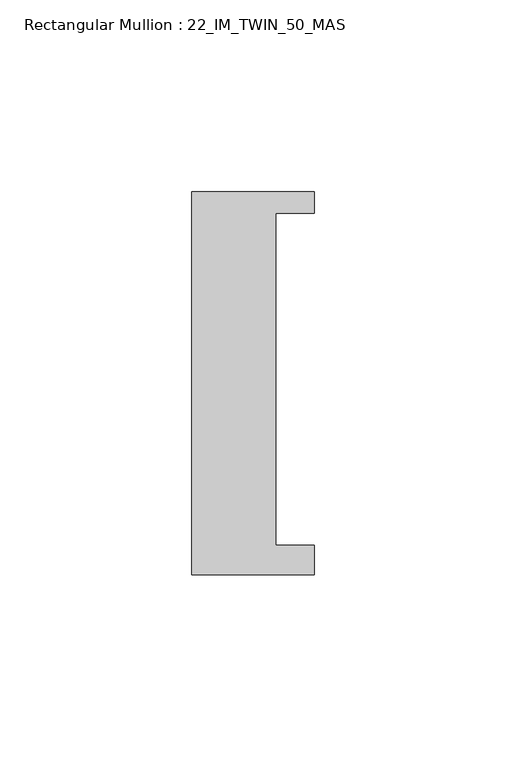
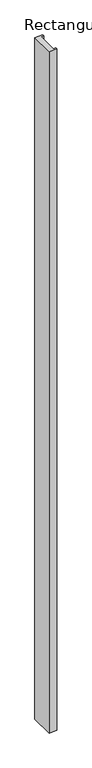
"""IFC4 building model written with IfcOpenShell, lengths in millimetres: member geometry, Rectangular Mullion : 22_IM_TWIN_50_MAS."""

from ifc_helpers import new_model, si_unit, frame, origin, place, context, project, spatial, polyline, outline, extrude, source, transform, mapped, element, save


def rectangular_mullion_22_im_twin_50_mas_251ff0a0(model_context):
    return source(origin(), model_context, "Body", "SweptSolid", [
        extrude(outline(polyline([(16.0, 50.0), (16.0, 44.3), (6.0, 44.3), (6.0, -42.3), (16.0, -42.3), (16.0, -50.0), (-16.0, -50.0), (-16.0, 50.0), (16.0, 50.0)])), frame((0.0, 0.0, -2936.0), z_axis=(0.0, 0.0, 1.0), x_axis=(1.0, 0.0, 0.0)), (0.0, 0.0, 1.0), 2936.0),
    ])


if __name__ == "__main__":
    model = new_model("IFC4")
    model_context = context("Model", 3, world=origin())
    ifc_project = project(units=[si_unit("LENGTHUNIT", "METRE", prefix="MILLI")], contexts=[model_context])
    site = spatial("IfcSite", under=ifc_project)
    building = spatial("IfcBuilding", under=site)
    placement = place(None, origin())
    rectangular_mullion_22_im_twin_50_mas_shape = rectangular_mullion_22_im_twin_50_mas_251ff0a0(model_context)
    element("IfcMember", 1, ObjectType="Rectangular Mullion : 22_IM_TWIN_50_MAS", at=placement, inside=building, context=model_context, shape_type="MappedRepresentation", body=[
        mapped(rectangular_mullion_22_im_twin_50_mas_shape, transform((0.0, 0.0, 0.0), x_axis=(1.0, 0.0, 0.0), y_axis=(0.0, 1.0, 0.0), z_axis=(0.0, 0.0, 1.0))),
    ])
    save(model, "model.ifc")
